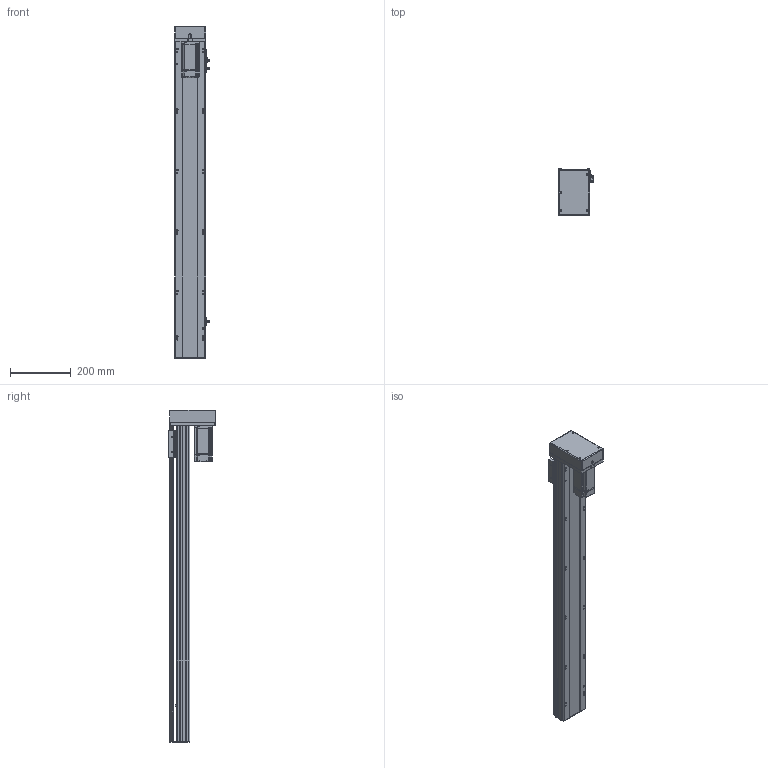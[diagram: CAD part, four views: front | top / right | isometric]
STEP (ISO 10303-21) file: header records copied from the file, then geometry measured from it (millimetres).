
FILE_DESCRIPTION (( 'STEP AP214' ), '1' );
FILE_NAME ('QTH12-850-BM-P20.STEP', '2021-11-13T13:09:01', ( '' ), ( '' ), 'SwSTEP 2.0', 'SolidWorks 2020', '' );
FILE_SCHEMA (( 'AUTOMOTIVE_DESIGN' ));
Length unit declared in the file: millimetre
Products named in the file (7): 葩璃 QTH12-BC-005 賑釱MZ-102-03 ^QTH12-BM-P20; QTH12-850-BM-P20; 葩璃 侂狟400W^QTH12-BM-P20; 葩璃 侂狟100W^QTH12-BM-P20; 葩璃 pm-t65-672^QTH12-BM-P20; 葩璃 QTH12-BR-002 奻裔MZ-102-02^QTH12-BM-P20; 葩璃 QTH12-BM-001 菁釱MZ-102-01^QTH12-BM-P20
Assembly tree (8 placements, depth 2):
  QTH12-850-BM-P20
    葩璃 QTH12-BM-001 菁釱MZ-102-01^QTH12-BM-P20
    葩璃 QTH12-BR-002 奻裔MZ-102-02^QTH12-BM-P20
    葩璃 QTH12-BC-005 賑釱MZ-102-03 ^QTH12-BM-P20
    葩璃 pm-t65-672^QTH12-BM-P20  x3
    葩璃 侂狟100W^QTH12-BM-P20
    葩璃 侂狟400W^QTH12-BM-P20
Bounding box: 116.7 x 153.5 x 1097.5 mm (x, y, z)
Volume: 4969991.2 mm3; surface area: 766454.4 mm2
Topology: 13 solids, 13 shells, 1501 faces, 4023 edges, 2601 vertices
Faces by surface type: plane 826, cylinder 541, cone 100, bspline 34
Entity records: 41909 total; most frequent: CARTESIAN_POINT 8331, DIRECTION 6836, ORIENTED_EDGE 6650, EDGE_CURVE 3325, AXIS2_PLACEMENT_3D 2382, VERTEX_POINT 2177, VECTOR 2072, LINE 2072
